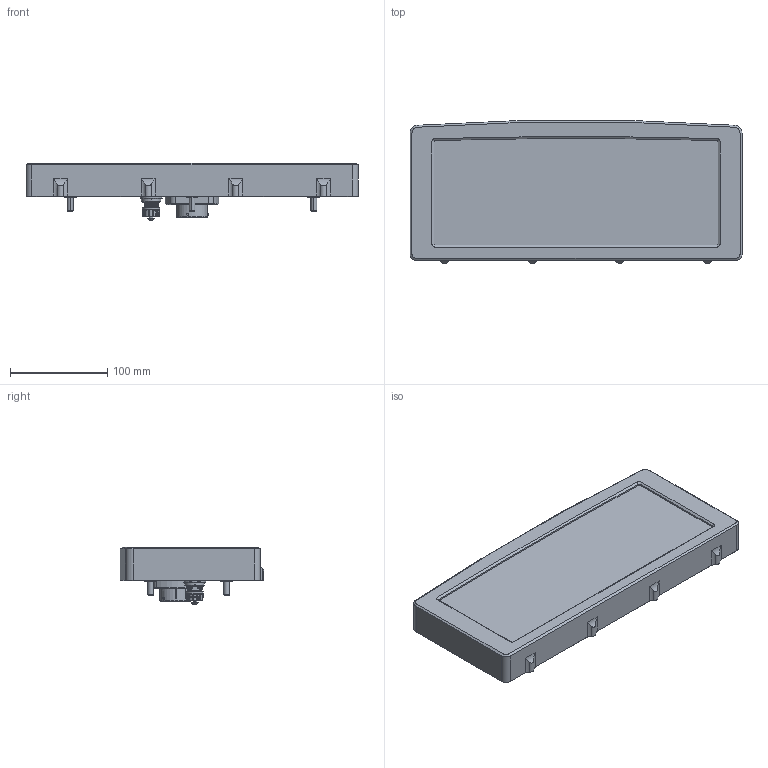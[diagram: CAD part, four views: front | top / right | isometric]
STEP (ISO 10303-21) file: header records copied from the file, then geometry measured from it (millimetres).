
FILE_DESCRIPTION(/* description */ ('Alibre Inc.'),/* implementation_level */ '2;1');
FILE_NAME(/* name */ 'export0',/* time_stamp */ '2015-12-22T16:48:46+11:00',/* author */ (''),/* organization */ (''),/* preprocessor_version */ 'ST-DEVELOPER v14',/* originating_system */ 'Alibre',/* authorisation */ '');
FILE_SCHEMA (('AUTOMOTIVE_DESIGN'));
Length unit declared in the file: centimetre
Bounding box: 340.8 x 146.97 x 58.6 mm (x, y, z)
Volume: 1558560.9 mm3; surface area: 149348.1 mm2
Topology: 31 solids, 31 shells, 1929 faces, 7418 edges, 5629 vertices
Faces by surface type: plane 875, cylinder 533, bspline 290, revolution 131, cone 48, torus 36, sphere 16
Full cylindrical faces by diameter (mm): 0.8 x79, 2 x3, 3.2 x2, 12 x3, 22.5 x1, 31.75 x1
Entity records: 110068 total; most frequent: CARTESIAN_POINT 50311, ORIENTED_EDGE 13700, DIRECTION 11440, EDGE_CURVE 6850, VERTEX_POINT 5334, AXIS2_PLACEMENT_3D 4752, CIRCLE 3216, VECTOR 2783
